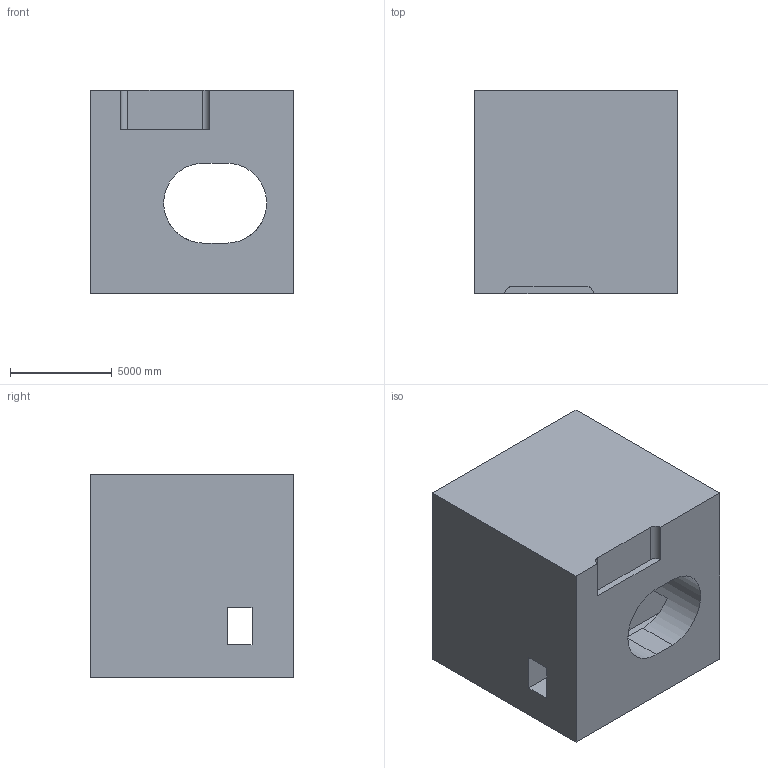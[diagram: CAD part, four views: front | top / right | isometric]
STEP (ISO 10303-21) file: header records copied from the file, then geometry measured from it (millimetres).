
FILE_DESCRIPTION (( 'STEP AP203' ), '1' );
FILE_NAME ('23.STEP', '2022-09-01T14:10:46', ( 'user' ), ( '' ), 'SwSTEP 2.0', 'SolidWorks 2021', '' );
FILE_SCHEMA (( 'CONFIG_CONTROL_DESIGN' ));
Length unit declared in the file: centimetre
Products named in the file (1): 23
Bounding box: 10000 x 10000 x 10000 mm (x, y, z)
Volume: 812803730216.5 mm3; surface area: 751832273.4 mm2
Topology: 1 solids, 1 shells, 20 faces, 60 edges, 40 vertices
Faces by surface type: plane 16, cylinder 4
Entity records: 765 total; most frequent: CARTESIAN_POINT 121, ORIENTED_EDGE 120, DIRECTION 114, EDGE_CURVE 60, VECTOR 48, LINE 48, VERTEX_POINT 40, AXIS2_PLACEMENT_3D 33
